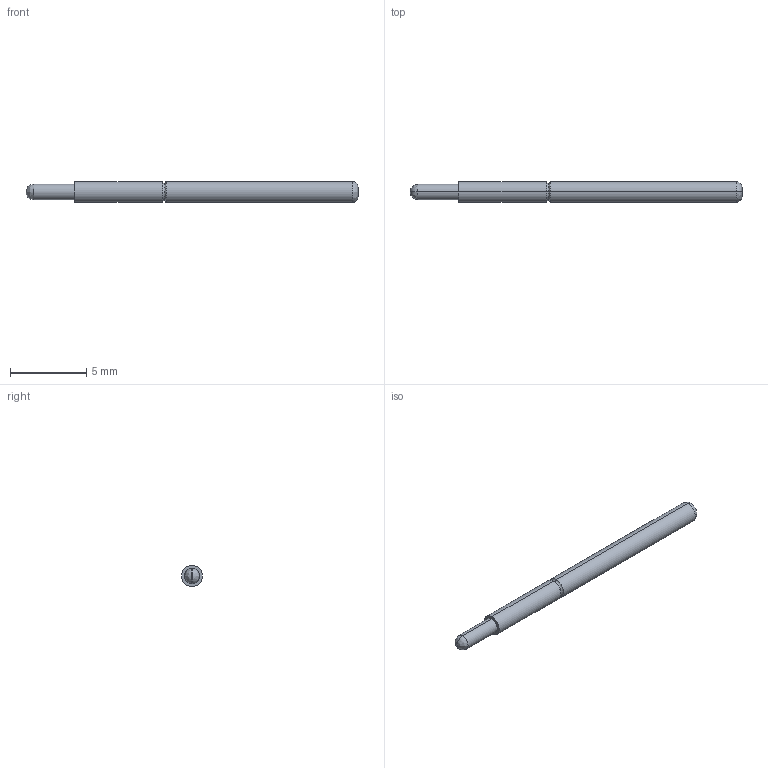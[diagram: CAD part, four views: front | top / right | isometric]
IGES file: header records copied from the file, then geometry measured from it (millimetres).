
Start section: SolidWorks IGES file using analytic representation for surfaces
Global section: file name: O:\PYLON\IGES FILES\P3158\P3158G-1R1S REC'D.IGS; native system: SolidWorks 2015; preprocessor: SolidWorks 2015; author: kgolden; date: 171020.061141; units: inch
Bounding box: 21.74 x 1.37 x 1.37 mm (x, y, z)
Surface area: 97 mm2 (no closed solid volume)
Topology: 0 solids, 0 shells, 19 faces, 120 edges, 120 vertices
Faces by surface type: bspline 11, revolution 8
